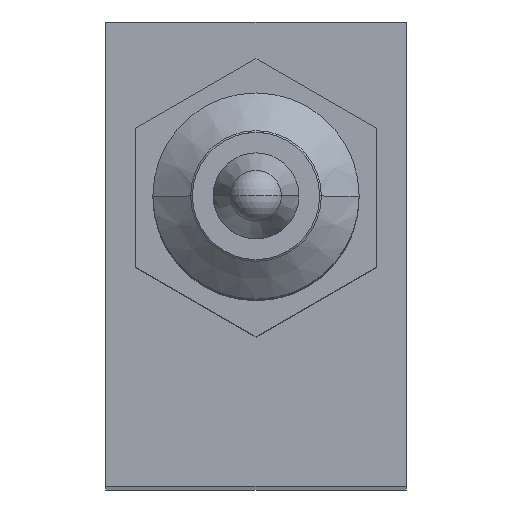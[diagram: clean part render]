
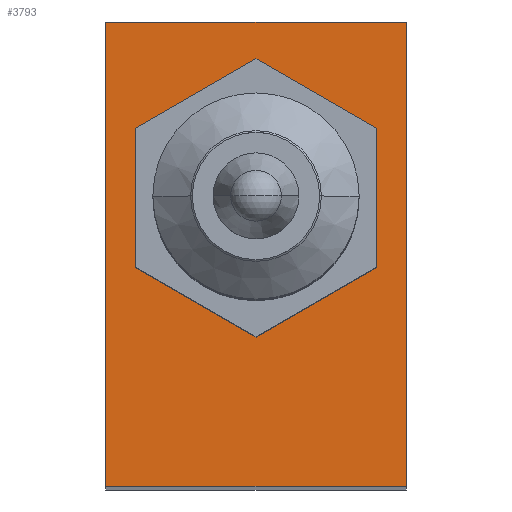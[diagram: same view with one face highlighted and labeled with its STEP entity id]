
A CAD part, top view. The second image highlights one B-rep face of the part: STEP entity #3793.
In plain terms, the highlighted planar face has unit normal (0, 0, 1).
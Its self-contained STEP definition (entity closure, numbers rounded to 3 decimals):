
#55 = DIRECTION ( 'NONE',  ( -1., 0., 0. ) ) ;
#63 = LINE ( 'NONE', #2002, #3353 ) ;
#107 = VECTOR ( 'NONE', #4139, 1000. ) ;
#213 = VECTOR ( 'NONE', #360, 1000. ) ;
#306 = CARTESIAN_POINT ( 'NONE',  ( -8.75, 10.25, -81.5 ) ) ;
#360 = DIRECTION ( 'NONE',  ( 0., 1., 0. ) ) ;
#379 = ORIENTED_EDGE ( 'NONE', *, *, #2981, .F. ) ;
#381 = VERTEX_POINT ( 'NONE', #3129 ) ;
#440 = CARTESIAN_POINT ( 'NONE',  ( 7., 4.041, -81.5 ) ) ;
#453 = CARTESIAN_POINT ( 'NONE',  ( -7., -4.041, -81.5 ) ) ;
#606 = EDGE_CURVE ( 'NONE', #381, #4125, #1702, .T. ) ;
#638 = EDGE_CURVE ( 'NONE', #3975, #2127, #2270, .T. ) ;
#694 = CARTESIAN_POINT ( 'NONE',  ( -8.75, -16.75, -81.5 ) ) ;
#778 = LINE ( 'NONE', #2929, #2399 ) ;
#1001 = DIRECTION ( 'NONE',  ( 0.866, 0.5, 0. ) ) ;
#1009 = CARTESIAN_POINT ( 'NONE',  ( -7., 4.041, -81.5 ) ) ;
#1065 = LINE ( 'NONE', #1307, #213 ) ;
#1079 = LINE ( 'NONE', #2495, #3530 ) ;
#1087 = LINE ( 'NONE', #1580, #1939 ) ;
#1154 = EDGE_LOOP ( 'NONE', ( #4079, #3909, #3919, #379, #3739, #2793 ) ) ;
#1252 = VERTEX_POINT ( 'NONE', #3363 ) ;
#1258 = CARTESIAN_POINT ( 'NONE',  ( 7., 4.041, -81.5 ) ) ;
#1307 = CARTESIAN_POINT ( 'NONE',  ( 7., -4.041, -81.5 ) ) ;
#1384 = CARTESIAN_POINT ( 'NONE',  ( 0., 8.083, -81.5 ) ) ;
#1404 = VERTEX_POINT ( 'NONE', #2475 ) ;
#1502 = CARTESIAN_POINT ( 'NONE',  ( 7., -4.041, -81.5 ) ) ;
#1510 = EDGE_CURVE ( 'NONE', #1252, #381, #3893, .T. ) ;
#1580 = CARTESIAN_POINT ( 'NONE',  ( -7., 4.041, -81.5 ) ) ;
#1658 = ORIENTED_EDGE ( 'NONE', *, *, #1510, .T. ) ;
#1693 = CARTESIAN_POINT ( 'NONE',  ( 8.75, 10.25, -81.5 ) ) ;
#1701 = CARTESIAN_POINT ( 'NONE',  ( 8.75, 10.25, -81.5 ) ) ;
#1702 = LINE ( 'NONE', #306, #107 ) ;
#1707 = DIRECTION ( 'NONE',  ( 0., -1., 0. ) ) ;
#1822 = VERTEX_POINT ( 'NONE', #453 ) ;
#1871 = ORIENTED_EDGE ( 'NONE', *, *, #3605, .F. ) ;
#1910 = FACE_OUTER_BOUND ( 'NONE', #3040, .T. ) ;
#1939 = VECTOR ( 'NONE', #3813, 1000. ) ;
#2002 = CARTESIAN_POINT ( 'NONE',  ( 8.75, -16.75, -81.5 ) ) ;
#2039 = DIRECTION ( 'NONE',  ( -0.866, 0.5, 0. ) ) ;
#2088 = VECTOR ( 'NONE', #1707, 1000. ) ;
#2127 = VERTEX_POINT ( 'NONE', #3409 ) ;
#2200 = VECTOR ( 'NONE', #3603, 1000. ) ;
#2270 = LINE ( 'NONE', #440, #3951 ) ;
#2299 = ORIENTED_EDGE ( 'NONE', *, *, #2689, .F. ) ;
#2397 = DIRECTION ( 'NONE',  ( 0., 0., -1. ) ) ;
#2399 = VECTOR ( 'NONE', #1001, 1000. ) ;
#2457 = VERTEX_POINT ( 'NONE', #2677 ) ;
#2475 = CARTESIAN_POINT ( 'NONE',  ( 8.75, -16.75, -81.5 ) ) ;
#2477 = EDGE_CURVE ( 'NONE', #3316, #1822, #1087, .T. ) ;
#2495 = CARTESIAN_POINT ( 'NONE',  ( -7., -4.041, -81.5 ) ) ;
#2586 = EDGE_CURVE ( 'NONE', #2457, #3822, #778, .T. ) ;
#2677 = CARTESIAN_POINT ( 'NONE',  ( 0., -8.083, -81.5 ) ) ;
#2681 = FACE_BOUND ( 'NONE', #1154, .T. ) ;
#2689 = EDGE_CURVE ( 'NONE', #1252, #1404, #2950, .T. ) ;
#2731 = PLANE ( 'NONE',  #2790 ) ;
#2790 = AXIS2_PLACEMENT_3D ( 'NONE', #3052, #2397, #3358 ) ;
#2793 = ORIENTED_EDGE ( 'NONE', *, *, #3682, .F. ) ;
#2819 = DIRECTION ( 'NONE',  ( 0.866, -0.5, 0. ) ) ;
#2929 = CARTESIAN_POINT ( 'NONE',  ( 0., -8.083, -81.5 ) ) ;
#2950 = LINE ( 'NONE', #1693, #2088 ) ;
#2981 = EDGE_CURVE ( 'NONE', #1822, #2457, #1079, .T. ) ;
#3040 = EDGE_LOOP ( 'NONE', ( #3960, #1871, #2299, #1658 ) ) ;
#3052 = CARTESIAN_POINT ( 'NONE',  ( 8.75, 10.25, -81.5 ) ) ;
#3129 = CARTESIAN_POINT ( 'NONE',  ( -8.75, 10.25, -81.5 ) ) ;
#3162 = LINE ( 'NONE', #1384, #3905 ) ;
#3288 = EDGE_CURVE ( 'NONE', #3822, #3975, #1065, .T. ) ;
#3316 = VERTEX_POINT ( 'NONE', #1009 ) ;
#3353 = VECTOR ( 'NONE', #55, 1000. ) ;
#3358 = DIRECTION ( 'NONE',  ( -1., 0., 0. ) ) ;
#3363 = CARTESIAN_POINT ( 'NONE',  ( 8.75, 10.25, -81.5 ) ) ;
#3409 = CARTESIAN_POINT ( 'NONE',  ( 0., 8.083, -81.5 ) ) ;
#3530 = VECTOR ( 'NONE', #2819, 1000. ) ;
#3603 = DIRECTION ( 'NONE',  ( -1., 0., 0. ) ) ;
#3605 = EDGE_CURVE ( 'NONE', #1404, #4125, #63, .T. ) ;
#3682 = EDGE_CURVE ( 'NONE', #2127, #3316, #3162, .T. ) ;
#3739 = ORIENTED_EDGE ( 'NONE', *, *, #2477, .F. ) ;
#3793 = ADVANCED_FACE ( 'NONE', ( #1910, #2681 ), #2731, .F. ) ;
#3813 = DIRECTION ( 'NONE',  ( 0., -1., 0. ) ) ;
#3822 = VERTEX_POINT ( 'NONE', #1502 ) ;
#3893 = LINE ( 'NONE', #1701, #2200 ) ;
#3905 = VECTOR ( 'NONE', #3944, 1000. ) ;
#3909 = ORIENTED_EDGE ( 'NONE', *, *, #3288, .F. ) ;
#3919 = ORIENTED_EDGE ( 'NONE', *, *, #2586, .F. ) ;
#3944 = DIRECTION ( 'NONE',  ( -0.866, -0.5, 0. ) ) ;
#3951 = VECTOR ( 'NONE', #2039, 1000. ) ;
#3960 = ORIENTED_EDGE ( 'NONE', *, *, #606, .T. ) ;
#3975 = VERTEX_POINT ( 'NONE', #1258 ) ;
#4079 = ORIENTED_EDGE ( 'NONE', *, *, #638, .F. ) ;
#4125 = VERTEX_POINT ( 'NONE', #694 ) ;
#4139 = DIRECTION ( 'NONE',  ( 0., -1., 0. ) ) ;
